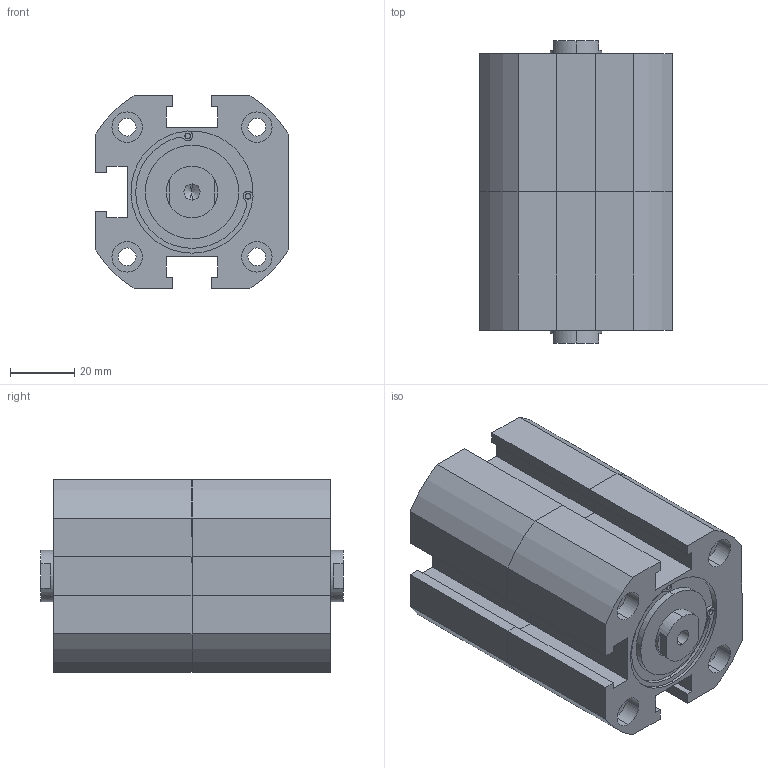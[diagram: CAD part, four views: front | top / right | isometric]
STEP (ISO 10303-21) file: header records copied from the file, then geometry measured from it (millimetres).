
FILE_DESCRIPTION (( 'STEP AP203' ), '1' );
FILE_NAME ('XGD7-40-10-10.STEP', '2016-08-05T01:44:09', ( '' ), ( '' ), 'SwSTEP 2.0', 'SolidWorks 2014', '' );
FILE_SCHEMA (( 'CONFIG_CONTROL_DESIGN' ));
Length unit declared in the file: millimetre
Products named in the file (2): XGD7-40-10-10; XG#2-40-10
Assembly tree (2 placements, depth 2):
  XGD7-40-10-10
    XG#2-40-10  x2
Bounding box: 60 x 94 x 60 mm (x, y, z)
Volume: 235947 mm3; surface area: 46778.3 mm2
Topology: 2 solids, 2 shells, 228 faces, 566 edges, 366 vertices
Faces by surface type: cylinder 108, plane 100, cone 20
Entity records: 3625 total; most frequent: DIRECTION 635, CARTESIAN_POINT 579, ORIENTED_EDGE 554, EDGE_CURVE 277, AXIS2_PLACEMENT_3D 239, VERTEX_POINT 183, LINE 157, VECTOR 157
